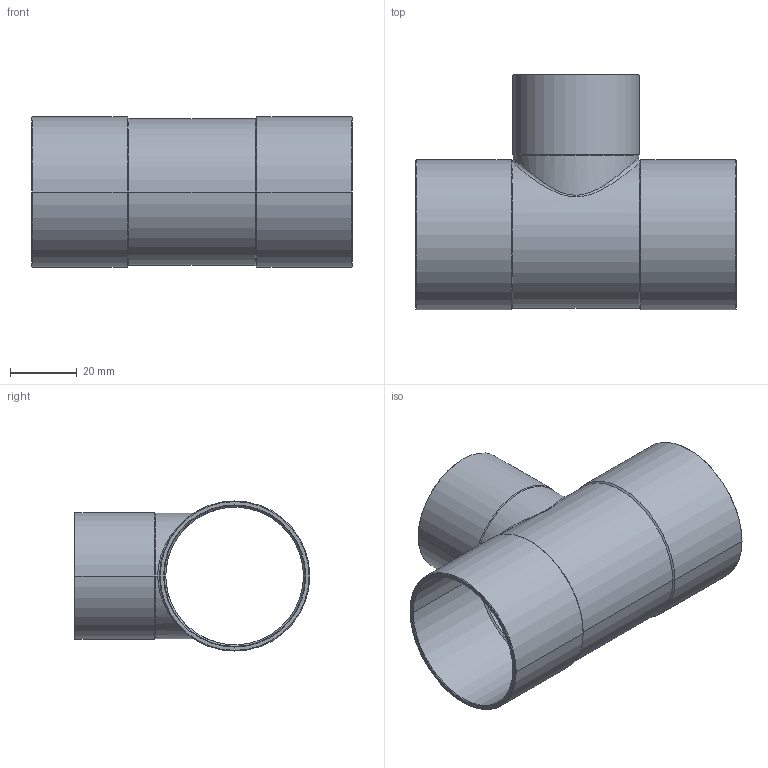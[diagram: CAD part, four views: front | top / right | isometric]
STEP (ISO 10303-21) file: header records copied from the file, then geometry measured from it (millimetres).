
FILE_DESCRIPTION((''),'2;1');
FILE_NAME('G:\Technics\CAD\Bauteile\15130\15130423542.stp','2005-11-02T10:19:53',('boden'),(''),'Autodesk Inventor 8','Autodesk Inventor 8','');
FILE_SCHEMA(('AUTOMOTIVE_DESIGN { 1 0 10303 214 1 1 1 1 }'));
Length unit declared in the file: millimetre
Products named in the file (1): 15130423542
Bounding box: 96 x 70.47 x 44.95 mm (x, y, z)
Volume: 21643.3 mm3; surface area: 31402.8 mm2
Topology: 1 solids, 1 shells, 49 faces, 112 edges, 64 vertices
Faces by surface type: cone 24, cylinder 20, plane 3, bspline 2
Entity records: 1927 total; most frequent: CARTESIAN_POINT 807, DIRECTION 238, ORIENTED_EDGE 224, EDGE_CURVE 112, AXIS2_PLACEMENT_3D 98, VERTEX_POINT 64, EDGE_LOOP 52, CIRCLE 50
